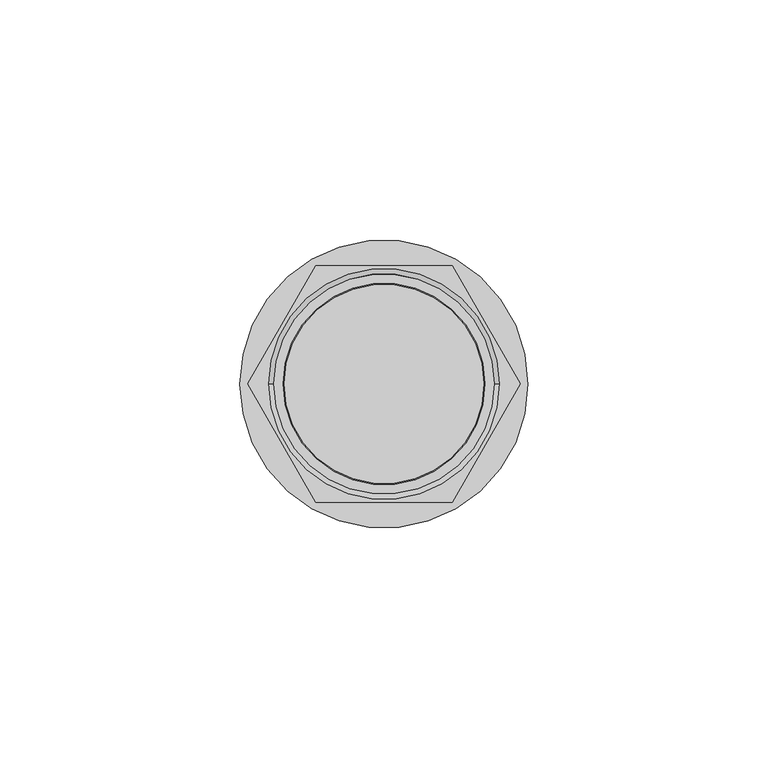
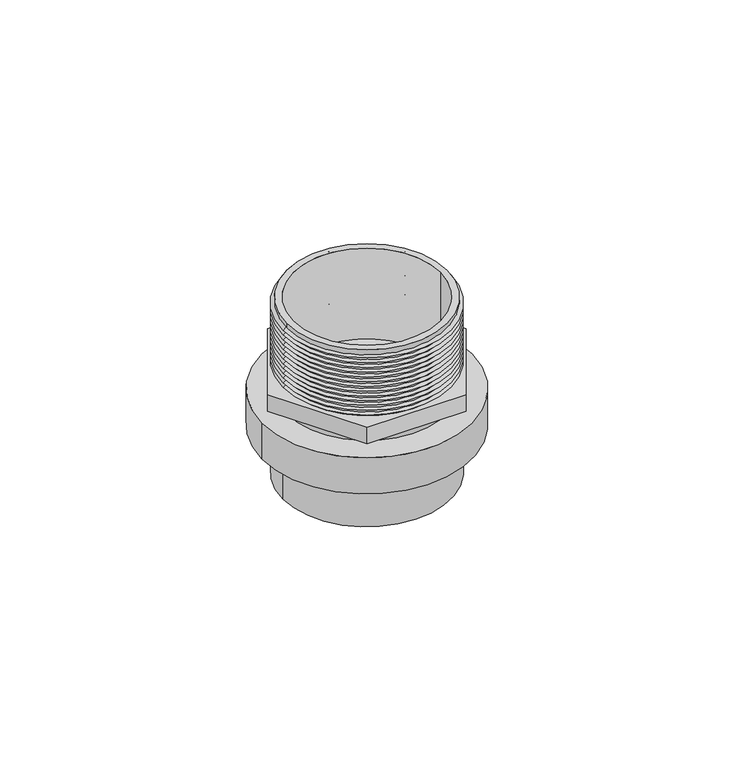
"""IFC4 building model written with IfcOpenShell, lengths in millimetres: valve geometry, Adaptador Macho con Ins Metalico_Lubrizol_CPVC_FlowGuard_MX 38mm : Adaptador Macho con Ins Metalico_Lubrizol_CPVC_FlowGuard_MX 38mm."""

from ifc_helpers import new_model, si_unit, point, frame, origin, origin_with_axes, origin_2d, place, context, project, spatial, polyline, circle_curve, trimmed, segment, composite_curve, outline, extrude, source, transform, mapped, element, save
from ifc_brep_helpers import plane_surface, cylinder_surface, revolved_surface, advanced_brep


def valve_839ebb6c(model_context):
    return source(origin(), model_context, "Body", "SolidModel", [
        extrude(outline(composite_curve([segment(trimmed(circle_curve(origin_2d(), 30.0), [point((-30.0, 0.0))], [point((30.0, 0.0))], False, "CARTESIAN"), True, "CONTINUOUS"), segment(trimmed(circle_curve(origin_2d(), 30.0), [point((30.0, 0.0))], [point((-30.0, 0.0))], False, "CARTESIAN"), True, "CONTINUOUS")], self_intersect=False)), frame((0.0, 0.0, 14.1847339), z_axis=(0.0, 0.0, 1.0), x_axis=(1.0, 0.0, 0.0)), (0.0, 0.0, 1.0), 10.9041531),
        extrude(outline(composite_curve([segment(trimmed(circle_curve(origin_2d(), 22.9323508), [point((-22.9323508, 0.0))], [point((22.9323508, 0.0))], False, "CARTESIAN"), True, "CONTINUOUS"), segment(trimmed(circle_curve(origin_2d(), 22.9323508), [point((22.9323508, 0.0))], [point((-22.9323508, 0.0))], False, "CARTESIAN"), True, "CONTINUOUS")], self_intersect=False), holes=[composite_curve([segment(trimmed(circle_curve(origin_2d(), 21.0), [point((-21.0, 0.0))], [point((21.0, 0.0))], True, "CARTESIAN"), True, "CONTINUOUS"), segment(trimmed(circle_curve(origin_2d(), 21.0), [point((21.0, 0.0))], [point((-21.0, 0.0))], True, "CARTESIAN"), True, "CONTINUOUS")], self_intersect=False)]), frame((0.0, 0.0, 25.088887), z_axis=(0.0, 0.0, 1.0), x_axis=(1.0, 0.0, 0.0)), (0.0, 0.0, 1.0), 27.7659117),
        extrude(outline(polyline([(-14.2085802, -24.6099828), (-28.4171604, 0.0), (-14.2085802, 24.6099828), (14.2085802, 24.6099828), (28.4171604, 0.0), (14.2085802, -24.6099828), (-14.2085802, -24.6099828)]), holes=[composite_curve([segment(trimmed(circle_curve(origin_2d(), 20.7927658), [point((-20.7927658, 0.0))], [point((20.7927658, 0.0))], True, "CARTESIAN"), True, "CONTINUOUS"), segment(trimmed(circle_curve(origin_2d(), 20.7927658), [point((20.7927658, 0.0))], [point((-20.7927658, 0.0))], True, "CARTESIAN"), True, "CONTINUOUS")], self_intersect=False)]), frame((0.0, 0.0, 28.1985053), z_axis=(0.0, 0.0, 1.0), x_axis=(1.0, 0.0, 0.0)), (0.0, 0.0, 1.0), 4.9722101),
        advanced_brep(
        [(22.9362873, 0.0, 51.8637271), (-22.9362873, 0.0, 51.8637271), (-22.9362873, 0.0, 52.8547988), (22.9362873, 0.0, 52.8547988), (24.0, 0.0, 51.1189075), (-24.0, 0.0, 51.1189075), (22.9657757, 0.0, 50.3947359), (-22.9657757, 0.0, 50.3947359), (24.0, 0.0, 49.6705643), (-24.0, 0.0, 49.6705643), (22.9657757, 0.0, 48.9463926), (-22.9657757, 0.0, 48.9463926), (24.0, 0.0, 48.222221), (-24.0, 0.0, 48.222221), (22.9657757, 0.0, 47.4980494), (-22.9657757, 0.0, 47.4980494), (24.0, 0.0, 46.7738778), (-24.0, 0.0, 46.7738778), (22.9657757, 0.0, 46.0497062), (-22.9657757, 0.0, 46.0497062), (24.0, 0.0, 45.3255345), (-24.0, 0.0, 45.3255345), (22.9657757, 0.0, 44.6013629), (-22.9657757, 0.0, 44.6013629), (24.0, 0.0, 43.8771913), (-24.0, 0.0, 43.8771913), (22.9657757, 0.0, 43.1530197), (-22.9657757, 0.0, 43.1530197), (24.0, 0.0, 42.428848), (-24.0, 0.0, 42.428848), (22.9657757, 0.0, 41.7046764), (-22.9657757, 0.0, 41.7046764), (24.0, 0.0, 40.9805048), (-24.0, 0.0, 40.9805048), (22.9657757, 0.0, 40.2563332), (-22.9657757, 0.0, 40.2563332), (24.0, 0.0, 39.5321616), (-24.0, 0.0, 39.5321616), (22.9992007, 0.0, 38.8313943), (-22.9992007, 0.0, 38.8313943), (24.0, 0.0, 38.1306271), (-24.0, 0.0, 38.1306271), (22.9992007, 0.0, 37.4298599), (-22.9992007, 0.0, 37.4298599), (24.0, 0.0, 36.7290927), (-24.0, 0.0, 36.7290927), (22.9323508, 0.0, 35.9815167), (-22.9323508, 0.0, 35.9815167), (24.0, 0.0, 35.2339406), (-24.0, 0.0, 35.2339406), (22.9992007, 0.0, 34.5331734), (-22.9992007, 0.0, 34.5331734), (22.0854831, 0.0, 33.1707154), (-22.0854831, 0.0, 33.1707154), (-23.0550075, 0.0, 33.1707154), (23.0550075, 0.0, 33.1707154), (22.0854831, 0.0, 52.8547988), (-22.0854831, 0.0, 52.8547988), (24.0, 0.0, 33.8324062), (-24.0, 0.0, 33.8324062)],
        [
            (0, 1, circle_curve(frame((0.0, 0.0, 51.8637271), z_axis=(0.0, 0.0, 1.0), x_axis=(-1.0, 0.0, 0.0)), 22.9362873)),
            (1, 2),
            (2, 3, circle_curve(frame((0.0, 0.0, 52.8547988), z_axis=(0.0, 0.0, -1.0), x_axis=(-1.0, 0.0, 0.0)), 22.9362873)),
            (3, 0),
            (1, 0, circle_curve(frame((0.0, 0.0, 51.8637271), z_axis=(0.0, 0.0, 1.0), x_axis=(-1.0, 0.0, 0.0)), 22.9362873)),
            (3, 2, circle_curve(frame((0.0, 0.0, 52.8547988), z_axis=(0.0, 0.0, -1.0), x_axis=(-1.0, 0.0, 0.0)), 22.9362873)),
            (4, 5, circle_curve(frame((0.0, 0.0, 51.1189075), z_axis=(0.0, 0.0, 1.0), x_axis=(-1.0, 0.0, 0.0)), 24.0)),
            (5, 1),
            (0, 4),
            (5, 4, circle_curve(frame((0.0, 0.0, 51.1189075), z_axis=(0.0, 0.0, 1.0), x_axis=(-1.0, 0.0, 0.0)), 24.0)),
            (6, 7, circle_curve(frame((0.0, 0.0, 50.3947359), z_axis=(0.0, 0.0, 1.0), x_axis=(-1.0, 0.0, 0.0)), 22.9657757)),
            (7, 5),
            (4, 6),
            (7, 6, circle_curve(frame((0.0, 0.0, 50.3947359), z_axis=(0.0, 0.0, 1.0), x_axis=(-1.0, 0.0, 0.0)), 22.9657757)),
            (8, 9, circle_curve(frame((0.0, 0.0, 49.6705643), z_axis=(0.0, 0.0, 1.0), x_axis=(-1.0, 0.0, 0.0)), 24.0)),
            (9, 7),
            (6, 8),
            (9, 8, circle_curve(frame((0.0, 0.0, 49.6705643), z_axis=(0.0, 0.0, 1.0), x_axis=(-1.0, 0.0, 0.0)), 24.0)),
            (10, 11, circle_curve(frame((0.0, 0.0, 48.9463926), z_axis=(0.0, 0.0, 1.0), x_axis=(-1.0, 0.0, 0.0)), 22.9657757)),
            (11, 9),
            (8, 10),
            (11, 10, circle_curve(frame((0.0, 0.0, 48.9463926), z_axis=(0.0, 0.0, 1.0), x_axis=(-1.0, 0.0, 0.0)), 22.9657757)),
            (12, 13, circle_curve(frame((0.0, 0.0, 48.222221), z_axis=(0.0, 0.0, 1.0), x_axis=(-1.0, 0.0, 0.0)), 24.0)),
            (13, 11),
            (10, 12),
            (13, 12, circle_curve(frame((0.0, 0.0, 48.222221), z_axis=(0.0, 0.0, 1.0), x_axis=(-1.0, 0.0, 0.0)), 24.0)),
            (14, 15, circle_curve(frame((0.0, 0.0, 47.4980494), z_axis=(0.0, 0.0, 1.0), x_axis=(-1.0, 0.0, 0.0)), 22.9657757)),
            (15, 13),
            (12, 14),
            (15, 14, circle_curve(frame((0.0, 0.0, 47.4980494), z_axis=(0.0, 0.0, 1.0), x_axis=(-1.0, 0.0, 0.0)), 22.9657757)),
            (16, 17, circle_curve(frame((0.0, 0.0, 46.7738778), z_axis=(0.0, 0.0, 1.0), x_axis=(-1.0, 0.0, 0.0)), 24.0)),
            (17, 15),
            (14, 16),
            (17, 16, circle_curve(frame((0.0, 0.0, 46.7738778), z_axis=(0.0, 0.0, 1.0), x_axis=(-1.0, 0.0, 0.0)), 24.0)),
            (18, 19, circle_curve(frame((0.0, 0.0, 46.0497062), z_axis=(0.0, 0.0, 1.0), x_axis=(-1.0, 0.0, 0.0)), 22.9657757)),
            (19, 17),
            (16, 18),
            (19, 18, circle_curve(frame((0.0, 0.0, 46.0497062), z_axis=(0.0, 0.0, 1.0), x_axis=(-1.0, 0.0, 0.0)), 22.9657757)),
            (20, 21, circle_curve(frame((0.0, 0.0, 45.3255345), z_axis=(0.0, 0.0, 1.0), x_axis=(-1.0, 0.0, 0.0)), 24.0)),
            (21, 19),
            (18, 20),
            (21, 20, circle_curve(frame((0.0, 0.0, 45.3255345), z_axis=(0.0, 0.0, 1.0), x_axis=(-1.0, 0.0, 0.0)), 24.0)),
            (22, 23, circle_curve(frame((0.0, 0.0, 44.6013629), z_axis=(0.0, 0.0, 1.0), x_axis=(-1.0, 0.0, 0.0)), 22.9657757)),
            (23, 21),
            (20, 22),
            (23, 22, circle_curve(frame((0.0, 0.0, 44.6013629), z_axis=(0.0, 0.0, 1.0), x_axis=(-1.0, 0.0, 0.0)), 22.9657757)),
            (24, 25, circle_curve(frame((0.0, 0.0, 43.8771913), z_axis=(0.0, 0.0, 1.0), x_axis=(-1.0, 0.0, 0.0)), 24.0)),
            (25, 23),
            (22, 24),
            (25, 24, circle_curve(frame((0.0, 0.0, 43.8771913), z_axis=(0.0, 0.0, 1.0), x_axis=(-1.0, 0.0, 0.0)), 24.0)),
            (26, 27, circle_curve(frame((0.0, 0.0, 43.1530197), z_axis=(0.0, 0.0, 1.0), x_axis=(-1.0, 0.0, 0.0)), 22.9657757)),
            (27, 25),
            (24, 26),
            (27, 26, circle_curve(frame((0.0, 0.0, 43.1530197), z_axis=(0.0, 0.0, 1.0), x_axis=(-1.0, 0.0, 0.0)), 22.9657757)),
            (28, 29, circle_curve(frame((0.0, 0.0, 42.428848), z_axis=(0.0, 0.0, 1.0), x_axis=(-1.0, 0.0, 0.0)), 24.0)),
            (29, 27),
            (26, 28),
            (29, 28, circle_curve(frame((0.0, 0.0, 42.428848), z_axis=(0.0, 0.0, 1.0), x_axis=(-1.0, 0.0, 0.0)), 24.0)),
            (30, 31, circle_curve(frame((0.0, 0.0, 41.7046764), z_axis=(0.0, 0.0, 1.0), x_axis=(-1.0, 0.0, 0.0)), 22.9657757)),
            (31, 29),
            (28, 30),
            (31, 30, circle_curve(frame((0.0, 0.0, 41.7046764), z_axis=(0.0, 0.0, 1.0), x_axis=(-1.0, 0.0, 0.0)), 22.9657757)),
            (32, 33, circle_curve(frame((0.0, 0.0, 40.9805048), z_axis=(0.0, 0.0, 1.0), x_axis=(-1.0, 0.0, 0.0)), 24.0)),
            (33, 31),
            (30, 32),
            (33, 32, circle_curve(frame((0.0, 0.0, 40.9805048), z_axis=(0.0, 0.0, 1.0), x_axis=(-1.0, 0.0, 0.0)), 24.0)),
            (34, 35, circle_curve(frame((0.0, 0.0, 40.2563332), z_axis=(0.0, 0.0, 1.0), x_axis=(-1.0, 0.0, 0.0)), 22.9657757)),
            (35, 33),
            (32, 34),
            (35, 34, circle_curve(frame((0.0, 0.0, 40.2563332), z_axis=(0.0, 0.0, 1.0), x_axis=(-1.0, 0.0, 0.0)), 22.9657757)),
            (36, 37, circle_curve(frame((0.0, 0.0, 39.5321616), z_axis=(0.0, 0.0, 1.0), x_axis=(-1.0, 0.0, 0.0)), 24.0)),
            (37, 35),
            (34, 36),
            (37, 36, circle_curve(frame((0.0, 0.0, 39.5321616), z_axis=(0.0, 0.0, 1.0), x_axis=(-1.0, 0.0, 0.0)), 24.0)),
            (38, 39, circle_curve(frame((0.0, 0.0, 38.8313943), z_axis=(0.0, 0.0, 1.0), x_axis=(-1.0, 0.0, 0.0)), 22.9992007)),
            (39, 37),
            (36, 38),
            (39, 38, circle_curve(frame((0.0, 0.0, 38.8313943), z_axis=(0.0, 0.0, 1.0), x_axis=(-1.0, 0.0, 0.0)), 22.9992007)),
            (40, 41, circle_curve(frame((0.0, 0.0, 38.1306271), z_axis=(0.0, 0.0, 1.0), x_axis=(-1.0, 0.0, 0.0)), 24.0)),
            (41, 39),
            (38, 40),
            (41, 40, circle_curve(frame((0.0, 0.0, 38.1306271), z_axis=(0.0, 0.0, 1.0), x_axis=(-1.0, 0.0, 0.0)), 24.0)),
            (42, 43, circle_curve(frame((0.0, 0.0, 37.4298599), z_axis=(0.0, 0.0, 1.0), x_axis=(-1.0, 0.0, 0.0)), 22.9992007)),
            (43, 41),
            (40, 42),
            (43, 42, circle_curve(frame((0.0, 0.0, 37.4298599), z_axis=(0.0, 0.0, 1.0), x_axis=(-1.0, 0.0, 0.0)), 22.9992007)),
            (44, 45, circle_curve(frame((0.0, 0.0, 36.7290927), z_axis=(0.0, 0.0, 1.0), x_axis=(-1.0, 0.0, 0.0)), 24.0)),
            (45, 43),
            (42, 44),
            (45, 44, circle_curve(frame((0.0, 0.0, 36.7290927), z_axis=(0.0, 0.0, 1.0), x_axis=(-1.0, 0.0, 0.0)), 24.0)),
            (46, 47, circle_curve(frame((0.0, 0.0, 35.9815167), z_axis=(0.0, 0.0, 1.0), x_axis=(-1.0, 0.0, 0.0)), 22.9323508)),
            (47, 45),
            (44, 46),
            (47, 46, circle_curve(frame((0.0, 0.0, 35.9815167), z_axis=(0.0, 0.0, 1.0), x_axis=(-1.0, 0.0, 0.0)), 22.9323508)),
            (48, 49, circle_curve(frame((0.0, 0.0, 35.2339406), z_axis=(0.0, 0.0, 1.0), x_axis=(-1.0, 0.0, 0.0)), 24.0)),
            (49, 47),
            (46, 48),
            (49, 48, circle_curve(frame((0.0, 0.0, 35.2339406), z_axis=(0.0, 0.0, 1.0), x_axis=(-1.0, 0.0, 0.0)), 24.0)),
            (50, 51, circle_curve(frame((0.0, 0.0, 34.5331734), z_axis=(0.0, 0.0, 1.0), x_axis=(-1.0, 0.0, 0.0)), 22.9992007)),
            (51, 49),
            (48, 50),
            (51, 50, circle_curve(frame((0.0, 0.0, 34.5331734), z_axis=(0.0, 0.0, 1.0), x_axis=(-1.0, 0.0, 0.0)), 22.9992007)),
            (52, 53, circle_curve(frame((0.0, 0.0, 33.1707154), z_axis=(0.0, 0.0, 1.0), x_axis=(-1.0, 0.0, 0.0)), 22.0854831)),
            (53, 54),
            (54, 55, circle_curve(frame((0.0, 0.0, 33.1707154), z_axis=(0.0, 0.0, -1.0), x_axis=(-1.0, 0.0, 0.0)), 23.0550075)),
            (55, 52),
            (53, 52, circle_curve(frame((0.0, 0.0, 33.1707154), z_axis=(0.0, 0.0, 1.0), x_axis=(-1.0, 0.0, 0.0)), 22.0854831)),
            (55, 54, circle_curve(frame((0.0, 0.0, 33.1707154), z_axis=(0.0, 0.0, -1.0), x_axis=(-1.0, 0.0, 0.0)), 23.0550075)),
            (56, 57, circle_curve(frame((0.0, 0.0, 52.8547988), z_axis=(0.0, 0.0, 1.0), x_axis=(-1.0, 0.0, 0.0)), 22.0854831)),
            (57, 53),
            (52, 56),
            (57, 56, circle_curve(frame((0.0, 0.0, 52.8547988), z_axis=(0.0, 0.0, 1.0), x_axis=(-1.0, 0.0, 0.0)), 22.0854831)),
            (2, 57),
            (56, 3),
            (58, 59, circle_curve(frame((0.0, 0.0, 33.8324062), z_axis=(0.0, 0.0, 1.0), x_axis=(-1.0, 0.0, 0.0)), 24.0)),
            (59, 51),
            (50, 58),
            (59, 58, circle_curve(frame((0.0, 0.0, 33.8324062), z_axis=(0.0, 0.0, 1.0), x_axis=(-1.0, 0.0, 0.0)), 24.0)),
            (54, 59),
            (58, 55),
        ],
        [
            cylinder_surface(frame((0.0, 0.0, 47.613787), z_axis=(0.0, 0.0, -1.0), x_axis=(-1.0, 0.0, 0.0)), 22.9362873),
            revolved_surface(polyline([(-22.9362873, 0.0, 51.8637271), (-24.0, 0.0, 51.1189075)]), (0.0, 0.0, 47.613787), (0.0, 0.0, -1.0)),
            revolved_surface(polyline([(-24.0, 0.0, 51.1189075), (-22.9657757, 0.0, 50.3947359)]), (0.0, 0.0, 47.613787), (0.0, 0.0, -1.0)),
            revolved_surface(polyline([(-22.9657757, 0.0, 50.3947359), (-24.0, 0.0, 49.6705643)]), (0.0, 0.0, 47.613787), (0.0, 0.0, -1.0)),
            revolved_surface(polyline([(-24.0, 0.0, 49.6705643), (-22.9657757, 0.0, 48.9463926)]), (0.0, 0.0, 47.613787), (0.0, 0.0, -1.0)),
            revolved_surface(polyline([(-22.9657757, 0.0, 48.9463926), (-24.0, 0.0, 48.222221)]), (0.0, 0.0, 47.613787), (0.0, 0.0, -1.0)),
            revolved_surface(polyline([(-24.0, 0.0, 48.222221), (-22.9657757, 0.0, 47.4980494)]), (0.0, 0.0, 47.613787), (0.0, 0.0, -1.0)),
            revolved_surface(polyline([(-22.9657757, 0.0, 47.4980494), (-24.0, 0.0, 46.7738778)]), (0.0, 0.0, 47.613787), (0.0, 0.0, -1.0)),
            revolved_surface(polyline([(-24.0, 0.0, 46.7738778), (-22.9657757, 0.0, 46.0497062)]), (0.0, 0.0, 47.613787), (0.0, 0.0, -1.0)),
            revolved_surface(polyline([(-22.9657757, 0.0, 46.0497062), (-24.0, 0.0, 45.3255345)]), (0.0, 0.0, 47.613787), (0.0, 0.0, -1.0)),
            revolved_surface(polyline([(-24.0, 0.0, 45.3255345), (-22.9657757, 0.0, 44.6013629)]), (0.0, 0.0, 47.613787), (0.0, 0.0, -1.0)),
            revolved_surface(polyline([(-22.9657757, 0.0, 44.6013629), (-24.0, 0.0, 43.8771913)]), (0.0, 0.0, 47.613787), (0.0, 0.0, -1.0)),
            revolved_surface(polyline([(-24.0, 0.0, 43.8771913), (-22.9657757, 0.0, 43.1530197)]), (0.0, 0.0, 47.613787), (0.0, 0.0, -1.0)),
            revolved_surface(polyline([(-22.9657757, 0.0, 43.1530197), (-24.0, 0.0, 42.428848)]), (0.0, 0.0, 47.613787), (0.0, 0.0, -1.0)),
            revolved_surface(polyline([(-24.0, 0.0, 42.428848), (-22.9657757, 0.0, 41.7046764)]), (0.0, 0.0, 47.613787), (0.0, 0.0, -1.0)),
            revolved_surface(polyline([(-22.9657757, 0.0, 41.7046764), (-24.0, 0.0, 40.9805048)]), (0.0, 0.0, 47.613787), (0.0, 0.0, -1.0)),
            revolved_surface(polyline([(-24.0, 0.0, 40.9805048), (-22.9657757, 0.0, 40.2563332)]), (0.0, 0.0, 47.613787), (0.0, 0.0, -1.0)),
            revolved_surface(polyline([(-22.9657757, 0.0, 40.2563332), (-24.0, 0.0, 39.5321616)]), (0.0, 0.0, 47.613787), (0.0, 0.0, -1.0)),
            revolved_surface(polyline([(-24.0, 0.0, 39.5321616), (-22.9992007, 0.0, 38.8313943)]), (0.0, 0.0, 47.613787), (0.0, 0.0, -1.0)),
            revolved_surface(polyline([(-22.9992007, 0.0, 38.8313943), (-24.0, 0.0, 38.1306271)]), (0.0, 0.0, 47.613787), (0.0, 0.0, -1.0)),
            revolved_surface(polyline([(-24.0, 0.0, 38.1306271), (-22.9992007, 0.0, 37.4298599)]), (0.0, 0.0, 47.613787), (0.0, 0.0, -1.0)),
            revolved_surface(polyline([(-22.9992007, 0.0, 37.4298599), (-24.0, 0.0, 36.7290927)]), (0.0, 0.0, 47.613787), (0.0, 0.0, -1.0)),
            revolved_surface(polyline([(-24.0, 0.0, 36.7290927), (-22.9323508, 0.0, 35.9815167)]), (0.0, 0.0, 47.613787), (0.0, 0.0, -1.0)),
            revolved_surface(polyline([(-22.9323508, 0.0, 35.9815167), (-24.0, 0.0, 35.2339406)]), (0.0, 0.0, 47.613787), (0.0, 0.0, -1.0)),
            revolved_surface(polyline([(-24.0, 0.0, 35.2339406), (-22.9992007, 0.0, 34.5331734)]), (0.0, 0.0, 47.613787), (0.0, 0.0, -1.0)),
            plane_surface(frame((0.0, 0.0, 33.1707154), z_axis=(0.0, 0.0, -1.0), x_axis=(-1.0, 0.0, 0.0))),
            revolved_surface(polyline([(-22.0854831, 0.0, 33.1707154), (-22.0854831, 0.0, 52.8547988)]), (0.0, 0.0, 47.613787), (0.0, 0.0, -1.0)),
            plane_surface(frame((0.0, 0.0, 52.8547988), z_axis=(0.0, 0.0, 1.0), x_axis=(-1.0, 0.0, 0.0))),
            revolved_surface(polyline([(-22.9992007, 0.0, 34.5331734), (-24.0, 0.0, 33.8324062)]), (0.0, 0.0, 47.613787), (0.0, 0.0, -1.0)),
            revolved_surface(polyline([(-24.0, 0.0, 33.8324062), (-23.0550075, 0.0, 33.1707154)]), (0.0, 0.0, 47.613787), (0.0, 0.0, -1.0)),
        ],
        [
            (0, [[1, 2, 3, 4]]),
            (0, [[5, -4, 6, -2]]),
            (1, [[7, 8, -1, 9]]),
            (1, [[10, -9, -5, -8]]),
            (2, [[11, 12, -7, 13]]),
            (2, [[14, -13, -10, -12]]),
            (3, [[15, 16, -11, 17]]),
            (3, [[18, -17, -14, -16]]),
            (4, [[19, 20, -15, 21]]),
            (4, [[22, -21, -18, -20]]),
            (5, [[23, 24, -19, 25]]),
            (5, [[26, -25, -22, -24]]),
            (6, [[27, 28, -23, 29]]),
            (6, [[30, -29, -26, -28]]),
            (7, [[31, 32, -27, 33]]),
            (7, [[34, -33, -30, -32]]),
            (8, [[35, 36, -31, 37]]),
            (8, [[38, -37, -34, -36]]),
            (9, [[39, 40, -35, 41]]),
            (9, [[42, -41, -38, -40]]),
            (10, [[43, 44, -39, 45]]),
            (10, [[46, -45, -42, -44]]),
            (11, [[47, 48, -43, 49]]),
            (11, [[50, -49, -46, -48]]),
            (12, [[51, 52, -47, 53]]),
            (12, [[54, -53, -50, -52]]),
            (13, [[55, 56, -51, 57]]),
            (13, [[58, -57, -54, -56]]),
            (14, [[59, 60, -55, 61]]),
            (14, [[62, -61, -58, -60]]),
            (15, [[63, 64, -59, 65]]),
            (15, [[66, -65, -62, -64]]),
            (16, [[67, 68, -63, 69]]),
            (16, [[70, -69, -66, -68]]),
            (17, [[71, 72, -67, 73]]),
            (17, [[74, -73, -70, -72]]),
            (18, [[75, 76, -71, 77]]),
            (18, [[78, -77, -74, -76]]),
            (19, [[79, 80, -75, 81]]),
            (19, [[82, -81, -78, -80]]),
            (20, [[83, 84, -79, 85]]),
            (20, [[86, -85, -82, -84]]),
            (21, [[87, 88, -83, 89]]),
            (21, [[90, -89, -86, -88]]),
            (22, [[91, 92, -87, 93]]),
            (22, [[94, -93, -90, -92]]),
            (23, [[95, 96, -91, 97]]),
            (23, [[98, -97, -94, -96]]),
            (24, [[99, 100, -95, 101]]),
            (24, [[102, -101, -98, -100]]),
            (25, [[103, 104, 105, 106]]),
            (25, [[107, -106, 108, -104]]),
            (26, [[109, 110, -103, 111]]),
            (26, [[112, -111, -107, -110]]),
            (27, [[-3, 113, -109, 114]]),
            (27, [[-6, -114, -112, -113]]),
            (28, [[115, 116, -99, 117]]),
            (28, [[118, -117, -102, -116]]),
            (29, [[-105, 119, -115, 120]]),
            (29, [[-108, -120, -118, -119]]),
        ],
    ),
        extrude(outline(composite_curve([segment(trimmed(circle_curve(origin_2d(), 24.0), [point((-24.0, 0.0))], [point((24.0, 0.0))], False, "CARTESIAN"), True, "CONTINUOUS"), segment(trimmed(circle_curve(origin_2d(), 24.0), [point((24.0, 0.0))], [point((-24.0, 0.0))], False, "CARTESIAN"), True, "CONTINUOUS")], self_intersect=False), holes=[composite_curve([segment(trimmed(circle_curve(origin_2d(), 21.0), [point((-21.0, 0.0))], [point((21.0, 0.0))], True, "CARTESIAN"), True, "CONTINUOUS"), segment(trimmed(circle_curve(origin_2d(), 21.0), [point((21.0, 0.0))], [point((-21.0, 0.0))], True, "CARTESIAN"), True, "CONTINUOUS")], self_intersect=False)]), origin_with_axes(), (0.0, 0.0, 1.0), 14.1847339),
    ])


if __name__ == "__main__":
    model = new_model("IFC4")
    model_context = context("Model", 3, world=origin())
    ifc_project = project(units=[si_unit("LENGTHUNIT", "METRE", prefix="MILLI")], contexts=[model_context])
    site = spatial("IfcSite", under=ifc_project)
    building = spatial("IfcBuilding", under=site)
    placement = place(None, origin())
    valve_shape = valve_839ebb6c(model_context)
    element("IfcValve", 1, ObjectType="Adaptador Macho con Ins Metalico_Lubrizol_CPVC_FlowGuard_MX 38mm : Adaptador Macho con Ins Metalico_Lubrizol_CPVC_FlowGuard_MX 38mm", at=placement, inside=building, context=model_context, shape_type="MappedRepresentation", body=[
        mapped(valve_shape, transform((0.0, 0.0, 0.0), x_axis=(1.0, 0.0, 0.0), y_axis=(0.0, 1.0, 0.0), z_axis=(0.0, 0.0, 1.0))),
    ])
    save(model, "model.ifc")
